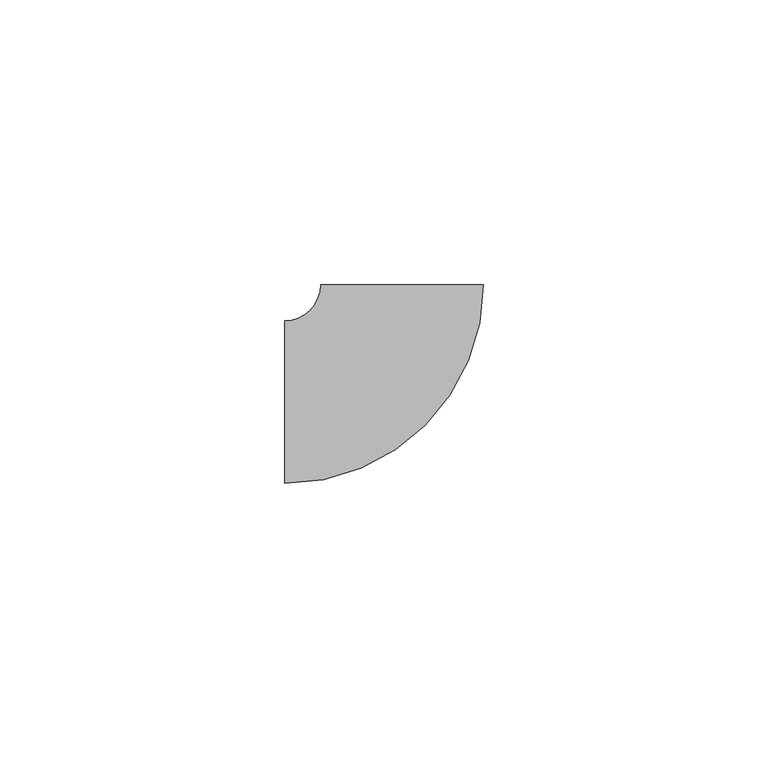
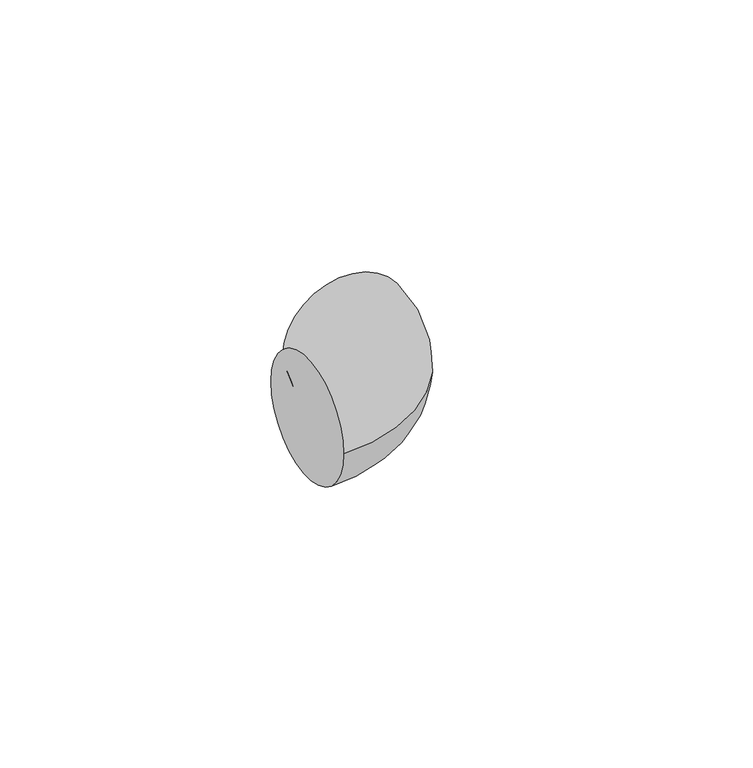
"""IFC4 building model written with IfcOpenShell, lengths in millimetres: pipe fitting geometry, M_Codo - Genérico : Estándar."""

from ifc_helpers import new_model, si_unit, point, frame, origin, place, context, project, spatial, circle_curve, ellipse_curve, trimmed, source, transform, mapped, element, save
from ifc_brep_helpers import plane_surface, revolved_surface, advanced_brep


def pipe_fitting_85c3688f(model_context):
    return source(origin(), model_context, "Body", "AdvancedBrep", [
        advanced_brep(
        [(-20.6379391, -14.2875, 0.0), (-20.6379391, 14.2875, 0.0), (14.2870609, 20.6382431, 0.0), (-14.2879391, 20.6376351, 0.0)],
        [
            (0, 1, circle_curve(frame((-20.6379391, 0.0, 0.0), z_axis=(-1.0, 0.0, 0.0), x_axis=(0.0, 1.0, 0.0)), 14.2875)),
            (1, 0, circle_curve(frame((-20.6379391, 0.0, 0.0), z_axis=(-1.0, 0.0, 0.0), x_axis=(0.0, 1.0, 0.0)), 14.2875)),
            (2, 3, circle_curve(frame((-0.0004391, 20.6379391, 0.0), z_axis=(-2.127763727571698e-05, 0.9999999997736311, 0.0), x_axis=(-0.9999999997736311, -2.127763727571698e-05, 0.0)), 14.2875)),
            (3, 2, circle_curve(frame((-0.0004391, 20.6379391, 0.0), z_axis=(-2.127763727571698e-05, 0.9999999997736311, 0.0), x_axis=(-0.9999999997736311, -2.127763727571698e-05, 0.0)), 14.2875)),
            (3, 1, circle_curve(frame((-20.6379391, 20.6375, 0.0), z_axis=(0.0, 0.0, -1.0), x_axis=(0.0, -1.0, 0.0)), 6.35)),
            (0, 2, circle_curve(frame((-20.6379391, 20.6375, 0.0), z_axis=(0.0, 0.0, 1.0), x_axis=(0.0, -1.0, 0.0)), 34.925)),
        ],
        [
            plane_surface(frame((-20.6379391, 0.0, 0.0), z_axis=(-1.0, 0.0, 0.0), x_axis=(0.0, 0.0, 1.0))),
            plane_surface(frame((-0.0004391, 20.6379391, 0.0), z_axis=(-2.127763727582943e-05, 0.9999999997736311, 0.0), x_axis=(0.0, 0.0, 1.0))),
            revolved_surface(trimmed(ellipse_curve(frame((-20.6379391, 0.0, 0.0), z_axis=(-1.0, 0.0, 0.0), x_axis=(0.0, 1.0, 0.0)), 14.2875, 14.2875), [point((-20.6379391, -14.2875, 0.0))], [point((-20.6379391, 14.2875, 0.0))], True, "CARTESIAN"), (-20.6379391, 20.6375, 0.0), (0.0, 0.0, 1.0)),
            revolved_surface(trimmed(ellipse_curve(frame((-20.6379391, 0.0, 0.0), z_axis=(-1.0, 0.0, 0.0), x_axis=(0.0, 1.0, 0.0)), 14.2875, 14.2875), [point((-20.6379391, 14.2875, 0.0))], [point((-20.6379391, -14.2875, 0.0))], True, "CARTESIAN"), (-20.6379391, 20.6375, 0.0), (0.0, 0.0, 1.0)),
        ],
        [
            (0, [[1, 2]]),
            (1, [[3, 4]]),
            (2, [[5, -1, 6, -4]]),
            (3, [[-6, -2, -5, -3]]),
        ],
    ),
    ])


if __name__ == "__main__":
    model = new_model("IFC4")
    model_context = context("Model", 3, world=origin())
    ifc_project = project(units=[si_unit("LENGTHUNIT", "METRE", prefix="MILLI")], contexts=[model_context])
    site = spatial("IfcSite", under=ifc_project)
    building = spatial("IfcBuilding", under=site)
    placement = place(None, origin())
    pipe_fitting_shape = pipe_fitting_85c3688f(model_context)
    element("IfcPipeFitting", 1, ObjectType="M_Codo - Genérico : Estándar", at=placement, inside=building, context=model_context, shape_type="MappedRepresentation", body=[
        mapped(pipe_fitting_shape, transform((0.0, 0.0, 0.0), x_axis=(1.0, 0.0, 0.0), y_axis=(0.0, 1.0, 0.0), z_axis=(0.0, 0.0, 1.0))),
    ])
    save(model, "model.ifc")
